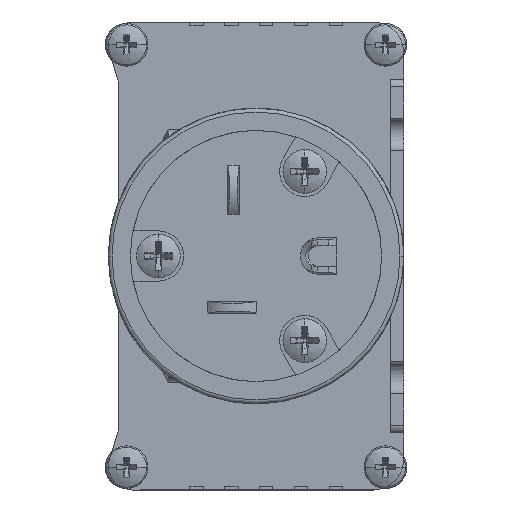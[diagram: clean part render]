
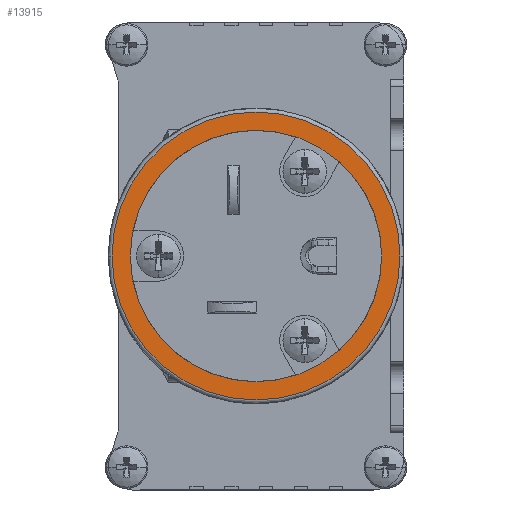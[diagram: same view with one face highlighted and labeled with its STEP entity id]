
A CAD part, left-side view. The second image highlights one B-rep face of the part: STEP entity #13915.
In plain terms, the highlighted planar face has unit normal (-1, 0, 0).
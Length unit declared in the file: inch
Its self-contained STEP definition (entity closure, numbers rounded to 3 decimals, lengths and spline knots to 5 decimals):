
#1223 = DIRECTION ( 'NONE',  ( -1., 0., 0. ) ) ;
#1300 = DIRECTION ( 'NONE',  ( 0., 1., 0. ) ) ;
#1659 = VERTEX_POINT ( 'NONE', #23972 ) ;
#2586 = FACE_BOUND ( 'NONE', #24679, .T. ) ;
#3618 = EDGE_CURVE ( 'NONE', #27124, #9497, #22304, .T. ) ;
#3882 = CARTESIAN_POINT ( 'NONE',  ( -11.63189, 0., 0. ) ) ;
#3983 = CARTESIAN_POINT ( 'NONE',  ( -11.63189, 0., 0. ) ) ;
#4631 = CARTESIAN_POINT ( 'NONE',  ( -11.63189, 0., 0. ) ) ;
#5103 = CIRCLE ( 'NONE', #27278, 0.65 ) ;
#5930 = EDGE_CURVE ( 'NONE', #10878, #1659, #26585, .T. ) ;
#6248 = AXIS2_PLACEMENT_3D ( 'NONE', #3983, #25067, #11076 ) ;
#7661 = ORIENTED_EDGE ( 'NONE', *, *, #5930, .T. ) ;
#8853 = FACE_OUTER_BOUND ( 'NONE', #21971, .T. ) ;
#9497 = VERTEX_POINT ( 'NONE', #17269 ) ;
#10878 = VERTEX_POINT ( 'NONE', #20081 ) ;
#10985 = PLANE ( 'NONE',  #6248 ) ;
#11076 = DIRECTION ( 'NONE',  ( 0., 1., 0. ) ) ;
#12400 = CARTESIAN_POINT ( 'NONE',  ( -11.63189, -0.65, 0. ) ) ;
#13915 = ADVANCED_FACE ( 'NONE', ( #8853, #2586 ), #10985, .T. ) ;
#14041 = DIRECTION ( 'NONE',  ( -1., 0., 0. ) ) ;
#15353 = AXIS2_PLACEMENT_3D ( 'NONE', #28010, #14041, #30362 ) ;
#15367 = DIRECTION ( 'NONE',  ( -1., 0., 0. ) ) ;
#17269 = CARTESIAN_POINT ( 'NONE',  ( -11.63189, 0.65, 0. ) ) ;
#17803 = EDGE_CURVE ( 'NONE', #1659, #10878, #24914, .T. ) ;
#17864 = DIRECTION ( 'NONE',  ( 0., 1., 0. ) ) ;
#18140 = EDGE_CURVE ( 'NONE', #9497, #27124, #5103, .T. ) ;
#19527 = ORIENTED_EDGE ( 'NONE', *, *, #3618, .F. ) ;
#20081 = CARTESIAN_POINT ( 'NONE',  ( -11.63189, -0.745, 0. ) ) ;
#20338 = DIRECTION ( 'NONE',  ( -1., 0., 0. ) ) ;
#21596 = DIRECTION ( 'NONE',  ( 0., 1., 0. ) ) ;
#21971 = EDGE_LOOP ( 'NONE', ( #25643, #7661 ) ) ;
#22304 = CIRCLE ( 'NONE', #26665, 0.65 ) ;
#23972 = CARTESIAN_POINT ( 'NONE',  ( -11.63189, 0.745, 0. ) ) ;
#24679 = EDGE_LOOP ( 'NONE', ( #29322, #19527 ) ) ;
#24914 = CIRCLE ( 'NONE', #15353, 0.745 ) ;
#25067 = DIRECTION ( 'NONE',  ( -1., 0., 0. ) ) ;
#25643 = ORIENTED_EDGE ( 'NONE', *, *, #17803, .T. ) ;
#26585 = CIRCLE ( 'NONE', #27119, 0.745 ) ;
#26665 = AXIS2_PLACEMENT_3D ( 'NONE', #3882, #20338, #17864 ) ;
#27119 = AXIS2_PLACEMENT_3D ( 'NONE', #4631, #1223, #21596 ) ;
#27124 = VERTEX_POINT ( 'NONE', #12400 ) ;
#27278 = AXIS2_PLACEMENT_3D ( 'NONE', #29323, #15367, #1300 ) ;
#28010 = CARTESIAN_POINT ( 'NONE',  ( -11.63189, 0., 0. ) ) ;
#29322 = ORIENTED_EDGE ( 'NONE', *, *, #18140, .F. ) ;
#29323 = CARTESIAN_POINT ( 'NONE',  ( -11.63189, 0., 0. ) ) ;
#30362 = DIRECTION ( 'NONE',  ( 0., 1., 0. ) ) ;
